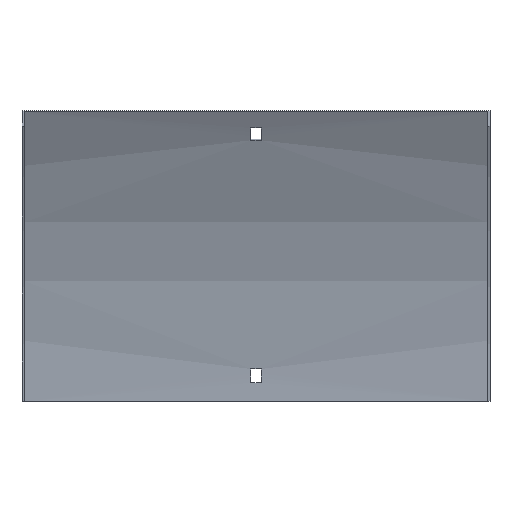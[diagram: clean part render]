
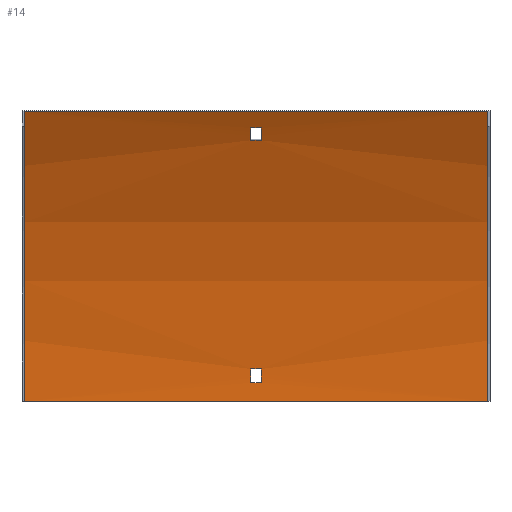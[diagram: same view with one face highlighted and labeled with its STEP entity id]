
A CAD part, front view. The second image highlights one B-rep face of the part: STEP entity #14.
In plain terms, the highlighted cylindrical face has radius 375 mm (diameter 750 mm), a partial arc.
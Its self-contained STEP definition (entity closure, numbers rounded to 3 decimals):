
#12 = CARTESIAN_POINT ( 'NONE',  ( -3.25, -45.907, 177.012 ) ) ;
#14 = ADVANCED_FACE ( 'NONE', ( #306, #550, #552 ), #90, .F. ) ;
#19 = DIRECTION ( 'NONE',  ( 1., 0., 0. ) ) ;
#20 = CARTESIAN_POINT ( 'NONE',  ( -3.25, -1.692, 12. ) ) ;
#21 = ORIENTED_EDGE ( 'NONE', *, *, #428, .T. ) ;
#34 = LINE ( 'NONE', #441, #157 ) ;
#38 = VERTEX_POINT ( 'NONE', #415 ) ;
#40 = ORIENTED_EDGE ( 'NONE', *, *, #526, .F. ) ;
#44 = LINE ( 'NONE', #133, #158 ) ;
#46 = VERTEX_POINT ( 'NONE', #12 ) ;
#48 = EDGE_CURVE ( 'NONE', #236, #46, #73, .T. ) ;
#56 = VECTOR ( 'NONE', #405, 1000. ) ;
#57 = DIRECTION ( 'NONE',  ( 0., 0., -1. ) ) ;
#61 = DIRECTION ( 'NONE',  ( 0., 0., -1. ) ) ;
#66 = VERTEX_POINT ( 'NONE', #555 ) ;
#67 = CARTESIAN_POINT ( 'NONE',  ( 151.5, -1.692, 12. ) ) ;
#73 = CIRCLE ( 'NONE', #530, 375. ) ;
#75 = EDGE_CURVE ( 'NONE', #463, #361, #216, .T. ) ;
#77 = CARTESIAN_POINT ( 'NONE',  ( -150., -51.74, 187.5 ) ) ;
#81 = DIRECTION ( 'NONE',  ( -1., 0., 0. ) ) ;
#90 = CYLINDRICAL_SURFACE ( 'NONE', #165, 375. ) ;
#103 = CARTESIAN_POINT ( 'NONE',  ( -150., -376.5, 0. ) ) ;
#104 = ORIENTED_EDGE ( 'NONE', *, *, #287, .T. ) ;
#110 = ORIENTED_EDGE ( 'NONE', *, *, #75, .T. ) ;
#119 = EDGE_CURVE ( 'NONE', #465, #434, #232, .T. ) ;
#128 = CARTESIAN_POINT ( 'NONE',  ( 151.5, -376.5, 0. ) ) ;
#133 = CARTESIAN_POINT ( 'NONE',  ( 151.5, -45.907, 177.012 ) ) ;
#140 = CARTESIAN_POINT ( 'NONE',  ( 150., -51.74, 187.5 ) ) ;
#143 = CIRCLE ( 'NONE', #209, 375. ) ;
#157 = VECTOR ( 'NONE', #393, 1000. ) ;
#158 = VECTOR ( 'NONE', #228, 1000. ) ;
#161 = ORIENTED_EDGE ( 'NONE', *, *, #48, .T. ) ;
#165 = AXIS2_PLACEMENT_3D ( 'NONE', #128, #81, #258 ) ;
#184 = EDGE_CURVE ( 'NONE', #463, #475, #34, .T. ) ;
#185 = ORIENTED_EDGE ( 'NONE', *, *, #504, .F. ) ;
#186 = VERTEX_POINT ( 'NONE', #354 ) ;
#187 = CARTESIAN_POINT ( 'NONE',  ( 150., -51.74, 187.5 ) ) ;
#192 = LINE ( 'NONE', #568, #500 ) ;
#198 = CARTESIAN_POINT ( 'NONE',  ( 151.5, -41.75, 169.019 ) ) ;
#201 = LINE ( 'NONE', #198, #590 ) ;
#207 = CARTESIAN_POINT ( 'NONE',  ( 3.25, -376.5, 0. ) ) ;
#209 = AXIS2_PLACEMENT_3D ( 'NONE', #544, #234, #474 ) ;
#213 = CARTESIAN_POINT ( 'NONE',  ( -3.25, -2.088, 21. ) ) ;
#216 = CIRCLE ( 'NONE', #570, 375. ) ;
#228 = DIRECTION ( 'NONE',  ( 1., 0., 0. ) ) ;
#232 = LINE ( 'NONE', #67, #301 ) ;
#233 = EDGE_LOOP ( 'NONE', ( #334, #40, #244, #341 ) ) ;
#234 = DIRECTION ( 'NONE',  ( -1., 0., 0. ) ) ;
#236 = VERTEX_POINT ( 'NONE', #254 ) ;
#240 = VERTEX_POINT ( 'NONE', #213 ) ;
#244 = ORIENTED_EDGE ( 'NONE', *, *, #266, .F. ) ;
#248 = VERTEX_POINT ( 'NONE', #77 ) ;
#250 = CARTESIAN_POINT ( 'NONE',  ( -3.25, -376.5, 0. ) ) ;
#254 = CARTESIAN_POINT ( 'NONE',  ( -3.25, -41.75, 169.019 ) ) ;
#258 = DIRECTION ( 'NONE',  ( 0., 0., 1. ) ) ;
#266 = EDGE_CURVE ( 'NONE', #434, #66, #459, .T. ) ;
#275 = DIRECTION ( 'NONE',  ( 1., 0., 0. ) ) ;
#276 = CARTESIAN_POINT ( 'NONE',  ( 150., -376.5, 0. ) ) ;
#277 = ORIENTED_EDGE ( 'NONE', *, *, #352, .T. ) ;
#287 = EDGE_CURVE ( 'NONE', #361, #248, #317, .T. ) ;
#301 = VECTOR ( 'NONE', #370, 1000. ) ;
#306 = FACE_BOUND ( 'NONE', #233, .T. ) ;
#317 = LINE ( 'NONE', #187, #56 ) ;
#318 = EDGE_LOOP ( 'NONE', ( #185, #576, #110, #104 ) ) ;
#327 = CARTESIAN_POINT ( 'NONE',  ( -150., -1.5, 0. ) ) ;
#333 = EDGE_CURVE ( 'NONE', #240, #465, #599, .T. ) ;
#334 = ORIENTED_EDGE ( 'NONE', *, *, #333, .F. ) ;
#339 = CARTESIAN_POINT ( 'NONE',  ( 3.25, -1.692, 12. ) ) ;
#341 = ORIENTED_EDGE ( 'NONE', *, *, #119, .F. ) ;
#343 = AXIS2_PLACEMENT_3D ( 'NONE', #207, #19, #375 ) ;
#352 = EDGE_CURVE ( 'NONE', #46, #38, #44, .T. ) ;
#354 = CARTESIAN_POINT ( 'NONE',  ( 3.25, -41.75, 169.019 ) ) ;
#359 = EDGE_LOOP ( 'NONE', ( #559, #161, #277, #21 ) ) ;
#361 = VERTEX_POINT ( 'NONE', #140 ) ;
#370 = DIRECTION ( 'NONE',  ( 1., 0., 0. ) ) ;
#375 = DIRECTION ( 'NONE',  ( 0., 0., -1. ) ) ;
#377 = DIRECTION ( 'NONE',  ( -1., 0., 0. ) ) ;
#392 = AXIS2_PLACEMENT_3D ( 'NONE', #551, #547, #496 ) ;
#393 = DIRECTION ( 'NONE',  ( -1., 0., 0. ) ) ;
#405 = DIRECTION ( 'NONE',  ( -1., 0., 0. ) ) ;
#415 = CARTESIAN_POINT ( 'NONE',  ( 3.25, -45.907, 177.012 ) ) ;
#420 = DIRECTION ( 'NONE',  ( 1., 0., 0. ) ) ;
#428 = EDGE_CURVE ( 'NONE', #38, #186, #143, .T. ) ;
#434 = VERTEX_POINT ( 'NONE', #339 ) ;
#440 = EDGE_CURVE ( 'NONE', #186, #236, #201, .T. ) ;
#441 = CARTESIAN_POINT ( 'NONE',  ( 150., -1.5, 0. ) ) ;
#459 = CIRCLE ( 'NONE', #343, 375. ) ;
#463 = VERTEX_POINT ( 'NONE', #515 ) ;
#465 = VERTEX_POINT ( 'NONE', #20 ) ;
#469 = DIRECTION ( 'NONE',  ( -1., 0., 0. ) ) ;
#474 = DIRECTION ( 'NONE',  ( 0., 0., 1. ) ) ;
#475 = VERTEX_POINT ( 'NONE', #327 ) ;
#496 = DIRECTION ( 'NONE',  ( 0., 0., 1. ) ) ;
#500 = VECTOR ( 'NONE', #469, 1000. ) ;
#504 = EDGE_CURVE ( 'NONE', #475, #248, #580, .T. ) ;
#515 = CARTESIAN_POINT ( 'NONE',  ( 150., -1.5, 0. ) ) ;
#526 = EDGE_CURVE ( 'NONE', #66, #240, #192, .T. ) ;
#530 = AXIS2_PLACEMENT_3D ( 'NONE', #250, #558, #562 ) ;
#544 = CARTESIAN_POINT ( 'NONE',  ( 3.25, -376.5, 0. ) ) ;
#547 = DIRECTION ( 'NONE',  ( -1., 0., 0. ) ) ;
#549 = AXIS2_PLACEMENT_3D ( 'NONE', #103, #275, #61 ) ;
#550 = FACE_OUTER_BOUND ( 'NONE', #318, .T. ) ;
#551 = CARTESIAN_POINT ( 'NONE',  ( -3.25, -376.5, 0. ) ) ;
#552 = FACE_BOUND ( 'NONE', #359, .T. ) ;
#555 = CARTESIAN_POINT ( 'NONE',  ( 3.25, -2.088, 21. ) ) ;
#558 = DIRECTION ( 'NONE',  ( 1., 0., 0. ) ) ;
#559 = ORIENTED_EDGE ( 'NONE', *, *, #440, .T. ) ;
#562 = DIRECTION ( 'NONE',  ( 0., 0., -1. ) ) ;
#568 = CARTESIAN_POINT ( 'NONE',  ( 151.5, -2.088, 21. ) ) ;
#570 = AXIS2_PLACEMENT_3D ( 'NONE', #276, #420, #57 ) ;
#576 = ORIENTED_EDGE ( 'NONE', *, *, #184, .F. ) ;
#580 = CIRCLE ( 'NONE', #549, 375. ) ;
#590 = VECTOR ( 'NONE', #377, 1000. ) ;
#599 = CIRCLE ( 'NONE', #392, 375. ) ;
